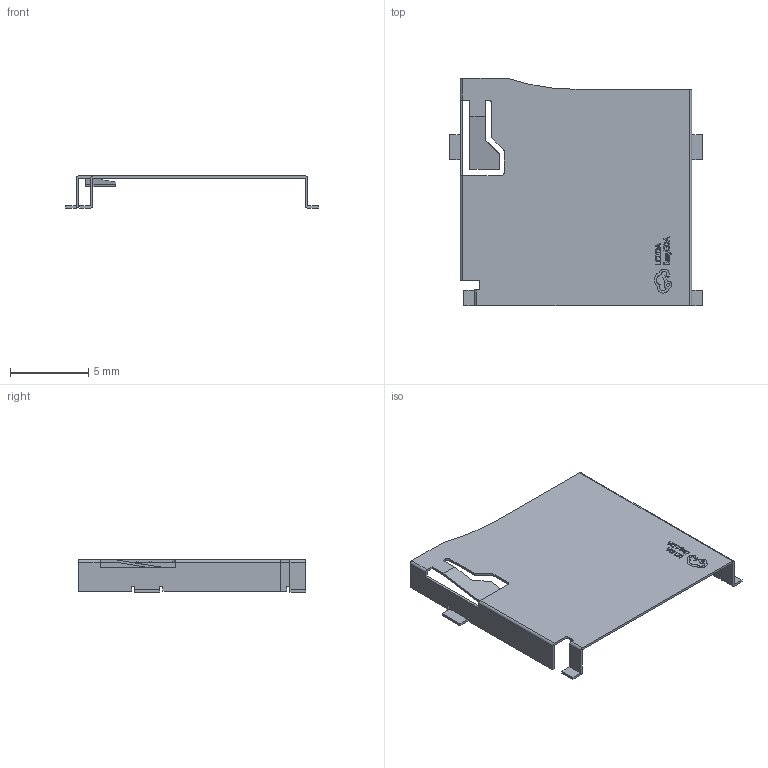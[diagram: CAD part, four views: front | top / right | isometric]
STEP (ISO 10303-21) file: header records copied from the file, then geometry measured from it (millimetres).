
FILE_DESCRIPTION(/* description */ ('STEP AP242 Edition 2','CAx-IF Rec.Pracs.---Representation and Presentation of Product Manufacturing Information (PMI)---4.0---2014-10-13','CAx-IF Rec.Pracs.---3D Tessellated Geometry---0.4---2014-09-14','2;1','CAx-IF Rec.Pracs.---User Defined Attributes---1.5---2016-08-15'),/* implementation_level */ '2;1');
FILE_NAME(/* name */ 'Assembly 1 - TF-SMD_TF-15-15~TF-SMD_TF-15-15~nxQB (2)',/* time_stamp */ '2026-04-02T09:55:30Z',/* author */ (''),/* organization */ (''),/* preprocessor_version */ 'ST-DEVELOPER v20',/* originating_system */ 'ONSHAPE BY PTC INC, 1.212',/* authorisation */ ' ');
FILE_SCHEMA (('AP242_MANAGED_MODEL_BASED_3D_ENGINEERING_MIM_LF { 1 0 10303 442 3 1 4 }'));
Length unit declared in the file: metre
Products named in the file (1): TF-SMD_TF-15-15~TF-SMD_TF-15-15~nxQB
Bounding box: 16.15 x 14.5 x 2.05 mm (x, y, z)
Volume: 37.8 mm3; surface area: 519.2 mm2
Topology: 1 solids, 1 shells, 296 faces, 828 edges, 551 vertices
Faces by surface type: plane 185, bspline 95, cylinder 15, sphere 1
Entity records: 12544 total; most frequent: CARTESIAN_POINT 3457, ORIENTED_EDGE 1656, DIRECTION 1068, EDGE_CURVE 828, LINE 600, VECTOR 600, VERTEX_POINT 551, EDGE_LOOP 315
